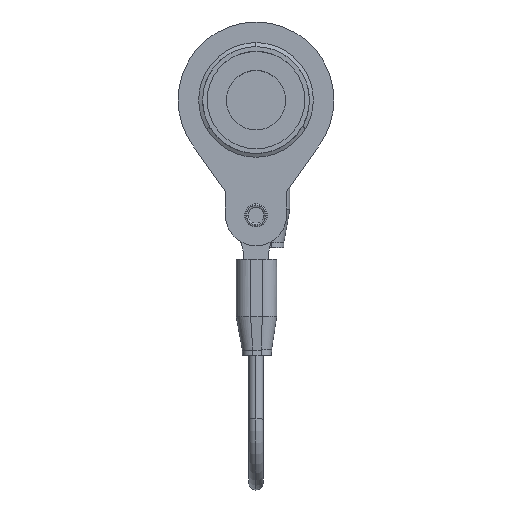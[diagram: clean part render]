
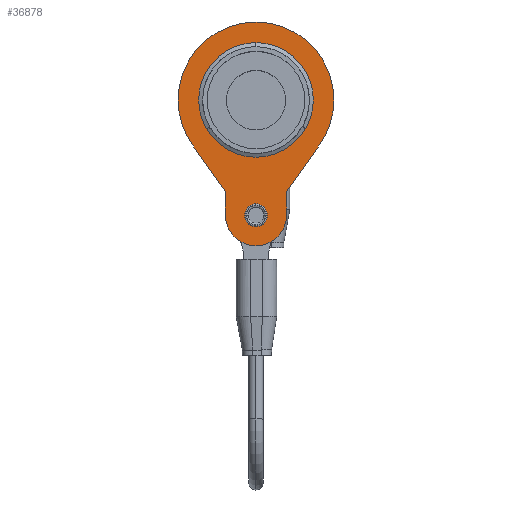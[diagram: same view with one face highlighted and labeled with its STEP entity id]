
A CAD part, top view. The second image highlights one B-rep face of the part: STEP entity #36878.
In plain terms, the highlighted planar face has unit normal (0, 0, 1) as drawn and (0, 0, -1) by its records, which use the part's own axes.
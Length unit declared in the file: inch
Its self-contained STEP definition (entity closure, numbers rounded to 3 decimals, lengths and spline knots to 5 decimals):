
#254 = CARTESIAN_POINT ( 'NONE',  ( 0., 0., -0.01378 ) ) ;
#415 = VERTEX_POINT ( 'NONE', #19996 ) ;
#562 = VERTEX_POINT ( 'NONE', #13443 ) ;
#577 = EDGE_LOOP ( 'NONE', ( #7773, #17504 ) ) ;
#864 = DIRECTION ( 'NONE',  ( 1., 0., 0. ) ) ;
#1196 = DIRECTION ( 'NONE',  ( 0., 1., 0. ) ) ;
#1483 = DIRECTION ( 'NONE',  ( 0., 0., 1. ) ) ;
#1550 = CARTESIAN_POINT ( 'NONE',  ( 0.19291, -0.57874, -0.01378 ) ) ;
#1696 = LINE ( 'NONE', #35859, #5736 ) ;
#1769 = DIRECTION ( 'NONE',  ( 1., 0., 0. ) ) ;
#2369 = VERTEX_POINT ( 'NONE', #30734 ) ;
#2575 = VECTOR ( 'NONE', #3883, 39.37008 ) ;
#3079 = EDGE_CURVE ( 'NONE', #562, #35203, #25850, .T. ) ;
#3216 = DIRECTION ( 'NONE',  ( 0., 0., 1. ) ) ;
#3351 = ORIENTED_EDGE ( 'NONE', *, *, #38804, .F. ) ;
#3457 = AXIS2_PLACEMENT_3D ( 'NONE', #31230, #3216, #13165 ) ;
#3511 = AXIS2_PLACEMENT_3D ( 'NONE', #254, #36612, #30650 ) ;
#3883 = DIRECTION ( 'NONE',  ( 0., -1., 0. ) ) ;
#5330 = ORIENTED_EDGE ( 'NONE', *, *, #17048, .F. ) ;
#5736 = VECTOR ( 'NONE', #23733, 39.37008 ) ;
#6379 = DIRECTION ( 'NONE',  ( 0., 0., 1. ) ) ;
#7308 = VERTEX_POINT ( 'NONE', #21775 ) ;
#7468 = EDGE_CURVE ( 'NONE', #15180, #18640, #31321, .T. ) ;
#7562 = LINE ( 'NONE', #19110, #38758 ) ;
#7612 = AXIS2_PLACEMENT_3D ( 'NONE', #34264, #1483, #25719 ) ;
#7661 = AXIS2_PLACEMENT_3D ( 'NONE', #10031, #25097, #864 ) ;
#7773 = ORIENTED_EDGE ( 'NONE', *, *, #18942, .T. ) ;
#8395 = CARTESIAN_POINT ( 'NONE',  ( -0.40144, -0.28466, -0.01378 ) ) ;
#9034 = VERTEX_POINT ( 'NONE', #15376 ) ;
#9299 = CARTESIAN_POINT ( 'NONE',  ( -0.3622, 0., -0.01378 ) ) ;
#9617 = ORIENTED_EDGE ( 'NONE', *, *, #31734, .T. ) ;
#10031 = CARTESIAN_POINT ( 'NONE',  ( 0., -0.72835, -0.01378 ) ) ;
#10183 = DIRECTION ( 'NONE',  ( 0.578, -0.816, 0. ) ) ;
#10189 = DIRECTION ( 'NONE',  ( 0., 0., 1. ) ) ;
#10332 = CARTESIAN_POINT ( 'NONE',  ( 0., 0., -0.01378 ) ) ;
#10684 = AXIS2_PLACEMENT_3D ( 'NONE', #12385, #6379, #36408 ) ;
#10850 = CARTESIAN_POINT ( 'NONE',  ( -0.19291, -0.57874, -0.01378 ) ) ;
#10997 = DIRECTION ( 'NONE',  ( 1., 0., 0. ) ) ;
#12069 = EDGE_CURVE ( 'NONE', #22297, #25270, #23135, .T. ) ;
#12385 = CARTESIAN_POINT ( 'NONE',  ( 0., 0., -0.01378 ) ) ;
#12817 = FACE_BOUND ( 'NONE', #34196, .T. ) ;
#13165 = DIRECTION ( 'NONE',  ( 1., 0., 0. ) ) ;
#13384 = ORIENTED_EDGE ( 'NONE', *, *, #3079, .T. ) ;
#13443 = CARTESIAN_POINT ( 'NONE',  ( 0.3622, 0., -0.01378 ) ) ;
#13772 = VERTEX_POINT ( 'NONE', #29165 ) ;
#15048 = VERTEX_POINT ( 'NONE', #1550 ) ;
#15180 = VERTEX_POINT ( 'NONE', #25575 ) ;
#15376 = CARTESIAN_POINT ( 'NONE',  ( 0.40144, -0.28466, -0.01378 ) ) ;
#15886 = VECTOR ( 'NONE', #1196, 39.37008 ) ;
#16141 = CIRCLE ( 'NONE', #37079, 0.06102 ) ;
#16229 = CIRCLE ( 'NONE', #3511, 0.3622 ) ;
#17048 = EDGE_CURVE ( 'NONE', #25270, #15180, #7562, .T. ) ;
#17504 = ORIENTED_EDGE ( 'NONE', *, *, #34164, .T. ) ;
#18640 = VERTEX_POINT ( 'NONE', #35090 ) ;
#18708 = CARTESIAN_POINT ( 'NONE',  ( 0.19291, -0.57874, -0.01378 ) ) ;
#18942 = EDGE_CURVE ( 'NONE', #7308, #2369, #31729, .T. ) ;
#19110 = CARTESIAN_POINT ( 'NONE',  ( -0.19291, -0.57874, -0.01378 ) ) ;
#19591 = EDGE_CURVE ( 'NONE', #13772, #15048, #28426, .T. ) ;
#19991 = CARTESIAN_POINT ( 'NONE',  ( -0.49213, 0., -0.01378 ) ) ;
#19996 = CARTESIAN_POINT ( 'NONE',  ( 0.49213, 0., -0.01378 ) ) ;
#20504 = EDGE_LOOP ( 'NONE', ( #21387, #38092, #5330, #36581, #3351, #28811, #37686, #35341 ) ) ;
#20729 = CIRCLE ( 'NONE', #21445, 0.49213 ) ;
#21387 = ORIENTED_EDGE ( 'NONE', *, *, #32708, .F. ) ;
#21445 = AXIS2_PLACEMENT_3D ( 'NONE', #24876, #10189, #25068 ) ;
#21775 = CARTESIAN_POINT ( 'NONE',  ( 0.06102, -0.72835, -0.01378 ) ) ;
#22297 = VERTEX_POINT ( 'NONE', #19991 ) ;
#22315 = PLANE ( 'NONE',  #7661 ) ;
#22428 = CARTESIAN_POINT ( 'NONE',  ( 0., -0.72835, -0.01378 ) ) ;
#22509 = FACE_OUTER_BOUND ( 'NONE', #20504, .T. ) ;
#23135 = CIRCLE ( 'NONE', #23761, 0.49213 ) ;
#23733 = DIRECTION ( 'NONE',  ( 0.578, 0.816, 0. ) ) ;
#23761 = AXIS2_PLACEMENT_3D ( 'NONE', #26652, #38224, #10997 ) ;
#24876 = CARTESIAN_POINT ( 'NONE',  ( 0., 0., -0.01378 ) ) ;
#25068 = DIRECTION ( 'NONE',  ( 1., 0., 0. ) ) ;
#25097 = DIRECTION ( 'NONE',  ( 0., 0., 1. ) ) ;
#25270 = VERTEX_POINT ( 'NONE', #8395 ) ;
#25575 = CARTESIAN_POINT ( 'NONE',  ( -0.19291, -0.57874, -0.01378 ) ) ;
#25719 = DIRECTION ( 'NONE',  ( 1., 0., 0. ) ) ;
#25850 = CIRCLE ( 'NONE', #10684, 0.3622 ) ;
#26652 = CARTESIAN_POINT ( 'NONE',  ( 0., 0., -0.01378 ) ) ;
#27900 = FACE_BOUND ( 'NONE', #577, .T. ) ;
#28128 = EDGE_CURVE ( 'NONE', #9034, #415, #20729, .T. ) ;
#28426 = LINE ( 'NONE', #18708, #15886 ) ;
#28596 = DIRECTION ( 'NONE',  ( 0., 0., 1. ) ) ;
#28761 = CIRCLE ( 'NONE', #3457, 0.19291 ) ;
#28811 = ORIENTED_EDGE ( 'NONE', *, *, #28128, .F. ) ;
#29165 = CARTESIAN_POINT ( 'NONE',  ( 0.19291, -0.72835, -0.01378 ) ) ;
#29988 = AXIS2_PLACEMENT_3D ( 'NONE', #10332, #37749, #38134 ) ;
#30650 = DIRECTION ( 'NONE',  ( 1., 0., 0. ) ) ;
#30734 = CARTESIAN_POINT ( 'NONE',  ( -0.06102, -0.72835, -0.01378 ) ) ;
#31230 = CARTESIAN_POINT ( 'NONE',  ( 0., -0.72835, -0.01378 ) ) ;
#31321 = LINE ( 'NONE', #10850, #2575 ) ;
#31729 = CIRCLE ( 'NONE', #7612, 0.06102 ) ;
#31734 = EDGE_CURVE ( 'NONE', #35203, #562, #16229, .T. ) ;
#32708 = EDGE_CURVE ( 'NONE', #18640, #13772, #28761, .T. ) ;
#33783 = CIRCLE ( 'NONE', #29988, 0.49213 ) ;
#34164 = EDGE_CURVE ( 'NONE', #2369, #7308, #16141, .T. ) ;
#34196 = EDGE_LOOP ( 'NONE', ( #13384, #9617 ) ) ;
#34264 = CARTESIAN_POINT ( 'NONE',  ( 0., -0.72835, -0.01378 ) ) ;
#35090 = CARTESIAN_POINT ( 'NONE',  ( -0.19291, -0.72835, -0.01378 ) ) ;
#35203 = VERTEX_POINT ( 'NONE', #9299 ) ;
#35341 = ORIENTED_EDGE ( 'NONE', *, *, #19591, .F. ) ;
#35859 = CARTESIAN_POINT ( 'NONE',  ( 0.19291, -0.57874, -0.01378 ) ) ;
#36408 = DIRECTION ( 'NONE',  ( 1., 0., 0. ) ) ;
#36569 = EDGE_CURVE ( 'NONE', #15048, #9034, #1696, .T. ) ;
#36581 = ORIENTED_EDGE ( 'NONE', *, *, #12069, .F. ) ;
#36612 = DIRECTION ( 'NONE',  ( 0., 0., 1. ) ) ;
#36878 = ADVANCED_FACE ( 'NONE', ( #27900, #12817, #22509 ), #22315, .F. ) ;
#37079 = AXIS2_PLACEMENT_3D ( 'NONE', #22428, #28596, #1769 ) ;
#37686 = ORIENTED_EDGE ( 'NONE', *, *, #36569, .F. ) ;
#37749 = DIRECTION ( 'NONE',  ( 0., 0., 1. ) ) ;
#38092 = ORIENTED_EDGE ( 'NONE', *, *, #7468, .F. ) ;
#38134 = DIRECTION ( 'NONE',  ( 1., 0., 0. ) ) ;
#38224 = DIRECTION ( 'NONE',  ( 0., 0., 1. ) ) ;
#38758 = VECTOR ( 'NONE', #10183, 39.37008 ) ;
#38804 = EDGE_CURVE ( 'NONE', #415, #22297, #33783, .T. ) ;
